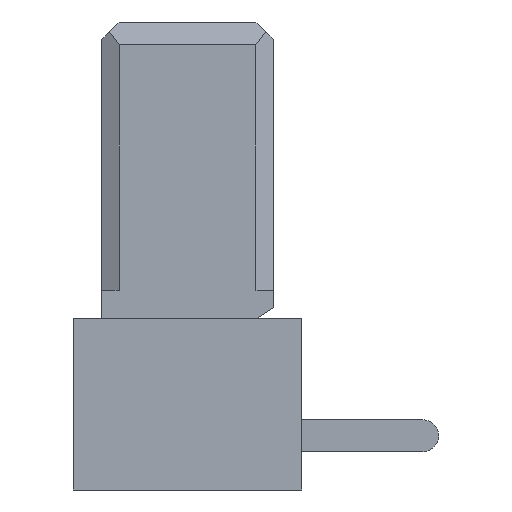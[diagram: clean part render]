
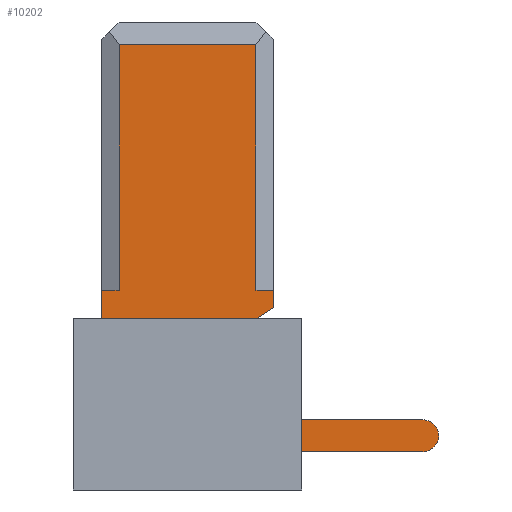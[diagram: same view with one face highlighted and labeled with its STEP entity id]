
A CAD part, left-side view. The second image highlights one B-rep face of the part: STEP entity #10202.
In plain terms, the highlighted planar face has unit normal (-1, 0, 0).
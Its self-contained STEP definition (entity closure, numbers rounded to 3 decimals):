
#3517=DIRECTION('',(0.,0.832,-0.555));
#3518=VECTOR('',#3517,0.361);
#3519=CARTESIAN_POINT('',(-7.8,0.5,0.2));
#3520=LINE('',#3519,#3518);
#3521=DIRECTION('',(0.,1.,0.));
#3522=VECTOR('',#3521,0.5);
#3523=CARTESIAN_POINT('',(-7.8,0.8,0.));
#3524=LINE('',#3523,#3522);
#3525=CARTESIAN_POINT('',(-7.8,1.45,-0.15));
#3526=DIRECTION('',(-1.,0.,0.));
#3527=DIRECTION('',(0.,0.,1.));
#3528=AXIS2_PLACEMENT_3D('',#3525,#3526,#3527);
#3530=DIRECTION('',(0.,-0.931,-0.365));
#3531=VECTOR('',#3530,0.22);
#3532=CARTESIAN_POINT('',(-7.8,1.505,-0.29));
#3533=LINE('',#3532,#3531);
#3534=DIRECTION('',(0.,0.,-1.));
#3535=VECTOR('',#3534,1.04);
#3536=CARTESIAN_POINT('',(-7.8,1.3,
-0.37));
#3537=LINE('',#3536,#3535);
#3538=DIRECTION('',(0.,0.913,-0.408));
#3539=VECTOR('',#3538,0.247);
#3540=CARTESIAN_POINT('',(-7.8,1.3,
-1.41));
#3541=LINE('',#3540,#3539);
#3542=CARTESIAN_POINT('',(-7.8,1.475,-1.625));
#3543=DIRECTION('',(-1.,0.,0.));
#3544=DIRECTION('',(0.,0.408,0.913));
#3545=AXIS2_PLACEMENT_3D('',#3542,#3543,#3544);
#3547=DIRECTION('',(0.,-0.707,-0.707));
#3548=VECTOR('',#3547,0.014);
#3549=CARTESIAN_POINT('',(-7.8,1.11,
-1.75));
#3550=LINE('',#3549,#3548);
#3551=DIRECTION('',(0.,-1.,0.));
#3552=VECTOR('',#3551,0.425);
#3553=CARTESIAN_POINT('',(-7.8,1.1,
-1.76));
#3554=LINE('',#3553,#3552);
#3555=DIRECTION('',(0.,-0.928,-0.371));
#3556=VECTOR('',#3555,0.081);
#3557=CARTESIAN_POINT('',(-7.8,0.675,
-1.76));
#3558=LINE('',#3557,#3556);
#3559=CARTESIAN_POINT('',(-7.8,-2.12,-2.05));
#3560=DIRECTION('',(1.,0.,0.));
#3561=DIRECTION('',(0.,0.,1.));
#3562=AXIS2_PLACEMENT_3D('',#3559,#3560,#3561);
#3564=DIRECTION('',(0.,1.,0.));
#3565=VECTOR('',#3564,2.9);
#3566=CARTESIAN_POINT('',(-7.8,0.6,-2.34));
#3567=LINE('',#3566,#3565);
#3568=DIRECTION('',(0.,0.,-1.));
#3569=VECTOR('',#3568,2.34);
#3570=CARTESIAN_POINT('',(-7.8,3.5,0.));
#3571=LINE('',#3570,#3569);
#3647=DIRECTION('',(0.,0.,1.));
#3648=VECTOR('',#3647,0.01);
#3649=CARTESIAN_POINT('',(-7.8,0.6,-2.34));
#3650=LINE('',#3649,#3648);
#3667=DIRECTION('',(0.,-1.,0.));
#3668=VECTOR('',#3667,2.72);
#3669=CARTESIAN_POINT('',(-7.8,0.6,-2.33));
#3670=LINE('',#3669,#3668);
#3687=DIRECTION('',(0.,1.,0.));
#3688=VECTOR('',#3687,2.72);
#3689=CARTESIAN_POINT('',(-7.8,-2.12,-1.77));
#3690=LINE('',#3689,#3688);
#3699=DIRECTION('',(0.,0.,-1.));
#3700=VECTOR('',#3699,0.02);
#3701=CARTESIAN_POINT('',(-7.8,0.6,-1.77));
#3702=LINE('',#3701,#3700);
#3775=DIRECTION('',(0.,1.,0.));
#3776=VECTOR('',#3775,0.365);
#3777=CARTESIAN_POINT('',(-7.8,1.11,
-1.75));
#3778=LINE('',#3777,#3776);
#3823=DIRECTION('',(0.,-1.,0.));
#3824=VECTOR('',#3823,0.15);
#3825=CARTESIAN_POINT('',(-7.8,1.45,0.));
#3826=LINE('',#3825,#3824);
#3843=DIRECTION('',(0.,0.,1.));
#3844=VECTOR('',#3843,0.3);
#3845=CARTESIAN_POINT('',(-7.8,0.5,0.2));
#3846=LINE('',#3845,#3844);
#3899=DIRECTION('',(0.,1.,0.));
#3900=VECTOR('',#3899,2.4);
#3901=CARTESIAN_POINT('',(-7.8,0.8,4.8));
#3902=LINE('',#3901,#3900);
#3915=DIRECTION('',(0.,0.,-1.));
#3916=VECTOR('',#3915,4.3);
#3917=CARTESIAN_POINT('',(-7.8,3.2,4.8));
#3918=LINE('',#3917,#3916);
#3939=DIRECTION('',(0.,1.,0.));
#3940=VECTOR('',#3939,0.3);
#3941=CARTESIAN_POINT('',(-7.8,3.2,0.5));
#3942=LINE('',#3941,#3940);
#3943=DIRECTION('',(0.,0.,-1.));
#3944=VECTOR('',#3943,0.5);
#3945=CARTESIAN_POINT('',(-7.8,3.5,0.5));
#3946=LINE('',#3945,#3944);
#3987=DIRECTION('',(0.,0.,1.));
#3988=VECTOR('',#3987,4.3);
#3989=CARTESIAN_POINT('',(-7.8,0.8,0.5));
#3990=LINE('',#3989,#3988);
#4003=DIRECTION('',(0.,1.,0.));
#4004=VECTOR('',#4003,0.3);
#4005=CARTESIAN_POINT('',(-7.8,0.5,0.5));
#4006=LINE('',#4005,#4004);
#4083=CARTESIAN_POINT('',(-7.8,1.3,
0.));
#4085=VERTEX_POINT('',#4083);
#4281=CARTESIAN_POINT('',(-7.8,1.1,
-1.76));
#4282=VERTEX_POINT('',#4281);
#4775=CARTESIAN_POINT('',(-7.8,0.6,-1.79));
#4777=VERTEX_POINT('',#4775);
#4781=CARTESIAN_POINT('',(-7.8,0.675,
-1.76));
#4782=VERTEX_POINT('',#4781);
#4827=CARTESIAN_POINT('',(-7.8,3.5,0.));
#4828=CARTESIAN_POINT('',(-7.8,3.5,-2.34));
#4829=VERTEX_POINT('',#4827);
#4830=VERTEX_POINT('',#4828);
#4831=CARTESIAN_POINT('',(-7.8,0.6,-2.34));
#4832=CARTESIAN_POINT('',(-7.8,0.6,-2.33));
#4833=VERTEX_POINT('',#4831);
#4834=VERTEX_POINT('',#4832);
#4835=CARTESIAN_POINT('',(-7.8,-2.12,-2.33));
#4836=VERTEX_POINT('',#4835);
#4837=CARTESIAN_POINT('',(-7.8,-2.12,-1.77));
#4838=VERTEX_POINT('',#4837);
#4839=CARTESIAN_POINT('',(-7.8,0.6,-1.77));
#4840=VERTEX_POINT('',#4839);
#4841=CARTESIAN_POINT('',(-7.8,1.11,
-1.75));
#4842=CARTESIAN_POINT('',(-7.8,1.475,-1.75));
#4843=VERTEX_POINT('',#4841);
#4844=VERTEX_POINT('',#4842);
#4845=CARTESIAN_POINT('',(-7.8,1.526,-1.511));
#4846=VERTEX_POINT('',#4845);
#4847=CARTESIAN_POINT('',(-7.8,1.3,
-1.41));
#4848=VERTEX_POINT('',#4847);
#4849=CARTESIAN_POINT('',(-7.8,1.505,-0.29));
#4850=CARTESIAN_POINT('',(-7.8,1.3,
-0.37));
#4851=VERTEX_POINT('',#4849);
#4852=VERTEX_POINT('',#4850);
#4853=CARTESIAN_POINT('',(-7.8,1.45,0.));
#4854=VERTEX_POINT('',#4853);
#4855=CARTESIAN_POINT('',(-7.8,0.5,0.2));
#4856=CARTESIAN_POINT('',(-7.8,0.8,0.));
#4857=VERTEX_POINT('',#4855);
#4858=VERTEX_POINT('',#4856);
#4859=CARTESIAN_POINT('',(-7.8,0.5,0.5));
#4860=VERTEX_POINT('',#4859);
#4861=CARTESIAN_POINT('',(-7.8,0.8,0.5));
#4862=VERTEX_POINT('',#4861);
#4863=CARTESIAN_POINT('',(-7.8,0.8,4.8));
#4864=VERTEX_POINT('',#4863);
#4865=CARTESIAN_POINT('',(-7.8,3.2,4.8));
#4866=VERTEX_POINT('',#4865);
#4867=CARTESIAN_POINT('',(-7.8,3.2,0.5));
#4868=VERTEX_POINT('',#4867);
#4869=CARTESIAN_POINT('',(-7.8,3.5,0.5));
#4870=VERTEX_POINT('',#4869);
#10146=CARTESIAN_POINT('',(-7.8,0.55,1.23));
#10147=DIRECTION('',(1.,0.,0.));
#10148=DIRECTION('',(0.,0.,-1.));
#10149=AXIS2_PLACEMENT_3D('',#10146,#10147,#10148);
#10150=PLANE('',#10149);
#10152=ORIENTED_EDGE('',*,*,#10151,.F.);
#10154=ORIENTED_EDGE('',*,*,#10153,.F.);
#10156=ORIENTED_EDGE('',*,*,#10155,.F.);
#10158=ORIENTED_EDGE('',*,*,#10157,.F.);
#10160=ORIENTED_EDGE('',*,*,#10159,.F.);
#10162=ORIENTED_EDGE('',*,*,#10161,.F.);
#10164=ORIENTED_EDGE('',*,*,#10163,.F.);
#10166=ORIENTED_EDGE('',*,*,#10165,.F.);
#10168=ORIENTED_EDGE('',*,*,#10167,.T.);
#10169=ORIENTED_EDGE('',*,*,#5615,.T.);
#10171=ORIENTED_EDGE('',*,*,#10170,.F.);
#10173=ORIENTED_EDGE('',*,*,#10172,.T.);
#10175=ORIENTED_EDGE('',*,*,#10174,.T.);
#10176=ORIENTED_EDGE('',*,*,#5520,.T.);
#10178=ORIENTED_EDGE('',*,*,#10177,.T.);
#10180=ORIENTED_EDGE('',*,*,#10179,.T.);
#10182=ORIENTED_EDGE('',*,*,#10181,.F.);
#10184=ORIENTED_EDGE('',*,*,#10183,.T.);
#10185=ORIENTED_EDGE('',*,*,#10129,.T.);
#10187=ORIENTED_EDGE('',*,*,#10186,.T.);
#10189=ORIENTED_EDGE('',*,*,#10188,.F.);
#10191=ORIENTED_EDGE('',*,*,#10190,.F.);
#10193=ORIENTED_EDGE('',*,*,#10192,.T.);
#10195=ORIENTED_EDGE('',*,*,#10194,.F.);
#10197=ORIENTED_EDGE('',*,*,#10196,.F.);
#10199=ORIENTED_EDGE('',*,*,#10198,.T.);
#10200=EDGE_LOOP('',(#10152,#10154,#10156,#10158,#10160,#10162,#10164,#10166,
#10168,#10169,#10171,#10173,#10175,#10176,#10178,#10180,#10182,#10184,#10185,
#10187,#10189,#10191,#10193,#10195,#10197,#10199));
#10201=FACE_OUTER_BOUND('',#10200,.F.);
#10202=ADVANCED_FACE('',(#10201),#10150,.F.);
#3529=CIRCLE('',#3528,0.15);
#3546=CIRCLE('',#3545,0.125);
#3563=CIRCLE('',#3562,0.28);
#5520=EDGE_CURVE('',#4852,#4848,#3537,.T.);
#5615=EDGE_CURVE('',#4858,#4085,#3524,.T.);
#10129=EDGE_CURVE('',#4282,#4782,#3554,.T.);
#10151=EDGE_CURVE('',#4829,#4830,#3571,.T.);
#10153=EDGE_CURVE('',#4870,#4829,#3946,.T.);
#10155=EDGE_CURVE('',#4868,#4870,#3942,.T.);
#10157=EDGE_CURVE('',#4866,#4868,#3918,.T.);
#10159=EDGE_CURVE('',#4864,#4866,#3902,.T.);
#10161=EDGE_CURVE('',#4862,#4864,#3990,.T.);
#10163=EDGE_CURVE('',#4860,#4862,#4006,.T.);
#10165=EDGE_CURVE('',#4857,#4860,#3846,.T.);
#10167=EDGE_CURVE('',#4857,#4858,#3520,.T.);
#10170=EDGE_CURVE('',#4854,#4085,#3826,.T.);
#10172=EDGE_CURVE('',#4854,#4851,#3529,.T.);
#10174=EDGE_CURVE('',#4851,#4852,#3533,.T.);
#10177=EDGE_CURVE('',#4848,#4846,#3541,.T.);
#10179=EDGE_CURVE('',#4846,#4844,#3546,.T.);
#10181=EDGE_CURVE('',#4843,#4844,#3778,.T.);
#10183=EDGE_CURVE('',#4843,#4282,#3550,.T.);
#10186=EDGE_CURVE('',#4782,#4777,#3558,.T.);
#10188=EDGE_CURVE('',#4840,#4777,#3702,.T.);
#10190=EDGE_CURVE('',#4838,#4840,#3690,.T.);
#10192=EDGE_CURVE('',#4838,#4836,#3563,.T.);
#10194=EDGE_CURVE('',#4834,#4836,#3670,.T.);
#10196=EDGE_CURVE('',#4833,#4834,#3650,.T.);
#10198=EDGE_CURVE('',#4833,#4830,#3567,.T.);
